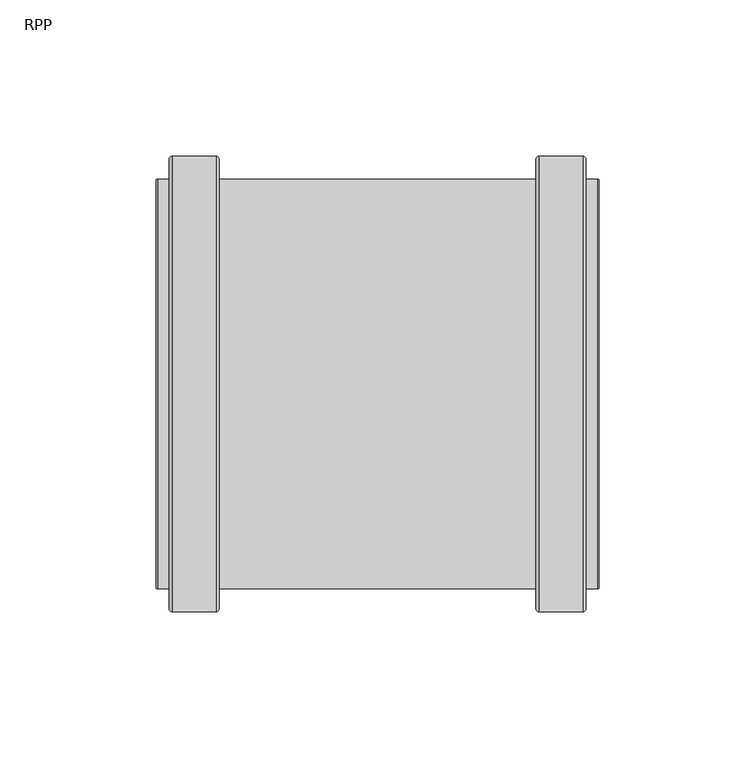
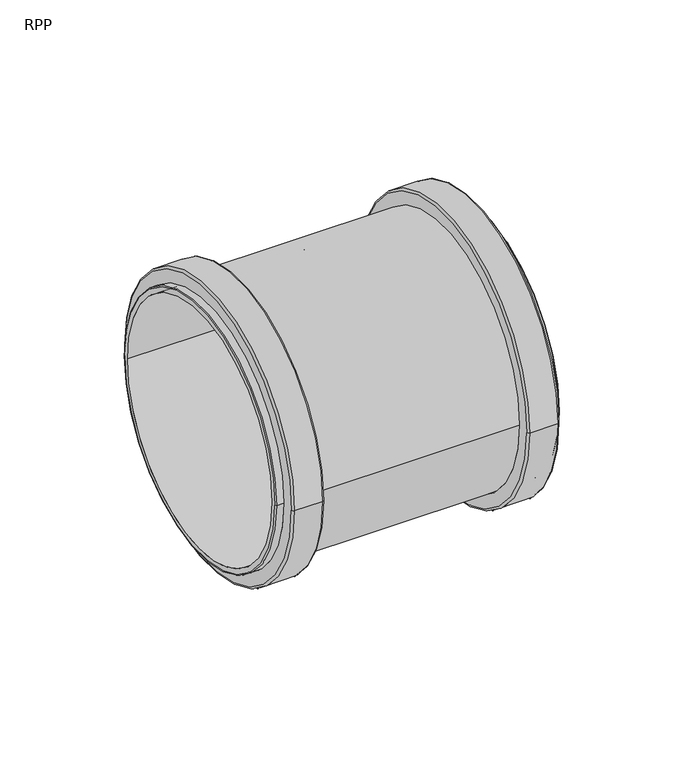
"""IFC4 building model written with IfcOpenShell, lengths in millimetres: pipe fitting geometry, RAUPIANO PLUS Double socket : RPP."""

from ifc_helpers import new_model, si_unit, point, frame, origin, place, context, project, spatial, polyline, circle_curve, ellipse_curve, trimmed, source, transform, mapped, element, save
from ifc_brep_helpers import plane_surface, cylinder_surface, revolved_surface, advanced_brep


def rpp_6ae6ac8c(model_context):
    return source(origin(), model_context, "Body", "AdvancedBrep", [
        advanced_brep(
        [(-65.8, 73.0, 0.0), (-65.8, -73.0, 0.0), (-66.8, -72.0, 0.0), (-66.8, 72.0, 0.0), (-51.8, 73.0, 0.0), (-51.8, -73.0, 0.0), (-50.8, 72.0, 0.0), (-50.8, -72.0, 0.0), (50.8, 65.6, 0.0), (50.8, -65.6, 0.0), (-50.8, -65.6, 0.0), (-50.8, 65.6, 0.0), (51.8, 73.0, 0.0), (51.8, -73.0, 0.0), (50.8, -72.0, 0.0), (50.8, 72.0, 0.0), (65.8, 73.0, 0.0), (65.8, -73.0, 0.0), (66.8, 72.0, 0.0), (66.8, -72.0, 0.0), (70.5, 65.6, 0.0), (70.5, -65.6, 0.0), (66.8, -65.6, 0.0), (66.8, 65.6, 0.0), (71.0, 65.1, 0.0), (71.0, -65.1, 0.0), (1.0, 62.5, 0.0), (1.0, -62.5, 0.0), (71.0, -62.5, 0.0), (71.0, 62.5, 0.0), (-1.0, 60.19828, 0.0), (-1.0, -60.19828, 0.0), (1.0, -60.19828, 0.0), (1.0, 60.19828, 0.0), (-71.0, 62.5, 0.0), (-71.0, -62.5, 0.0), (-1.0, -62.5, 0.0), (-1.0, 62.5, 0.0), (-70.5, 65.6, 0.0), (-70.5, -65.6, 0.0), (-71.0, -65.1, 0.0), (-71.0, 65.1, 0.0), (-66.8, 65.6, 0.0), (-66.8, -65.6, 0.0)],
        [
            (0, 1, circle_curve(frame((-65.8, 0.0, 0.0), z_axis=(-1.0, 0.0, 0.0), x_axis=(0.0, -1.0, 0.0)), 73.0)),
            (1, 2, circle_curve(frame((-65.8, -72.0, 0.0), z_axis=(0.0, 0.0, -1.0), x_axis=(1.0, 0.0, 0.0)), 1.0)),
            (2, 3, circle_curve(frame((-66.8, 0.0, 0.0), z_axis=(1.0, 0.0, 0.0), x_axis=(0.0, -1.0, 0.0)), 72.0)),
            (3, 0, circle_curve(frame((-65.8, 72.0, 0.0), z_axis=(0.0, 0.0, -1.0), x_axis=(1.0, 0.0, 0.0)), 1.0)),
            (4, 5, circle_curve(frame((-51.8, 0.0, 0.0), z_axis=(-1.0, 0.0, 0.0), x_axis=(0.0, -1.0, 0.0)), 73.0)),
            (5, 1),
            (0, 4),
            (6, 7, circle_curve(frame((-50.8, 0.0, 0.0), z_axis=(-1.0, 0.0, 0.0), x_axis=(0.0, -1.0, 0.0)), 72.0)),
            (7, 5, circle_curve(frame((-51.8, -72.0, 0.0), z_axis=(0.0, 0.0, -1.0), x_axis=(1.0, 0.0, 0.0)), 1.0)),
            (4, 6, circle_curve(frame((-51.8, 72.0, 0.0), z_axis=(0.0, 0.0, -1.0), x_axis=(1.0, 0.0, 0.0)), 1.0)),
            (8, 9, circle_curve(frame((50.8, 0.0, 0.0), z_axis=(-1.0, 0.0, 0.0), x_axis=(0.0, -1.0, 0.0)), 65.6)),
            (9, 10),
            (10, 11, circle_curve(frame((-50.8, 0.0, 0.0), z_axis=(1.0, 0.0, 0.0), x_axis=(0.0, -1.0, 0.0)), 65.6)),
            (11, 8),
            (12, 13, circle_curve(frame((51.8, 0.0, 0.0), z_axis=(-1.0, 0.0, 0.0), x_axis=(0.0, -1.0, 0.0)), 73.0)),
            (13, 14, circle_curve(frame((51.8, -72.0, 0.0), z_axis=(0.0, 0.0, -1.0), x_axis=(1.0, 0.0, 0.0)), 1.0)),
            (14, 15, circle_curve(frame((50.8, 0.0, 0.0), z_axis=(1.0, 0.0, 0.0), x_axis=(0.0, -1.0, 0.0)), 72.0)),
            (15, 12, circle_curve(frame((51.8, 72.0, 0.0), z_axis=(0.0, 0.0, -1.0), x_axis=(1.0, 0.0, 0.0)), 1.0)),
            (16, 17, circle_curve(frame((65.8, 0.0, 0.0), z_axis=(-1.0, 0.0, 0.0), x_axis=(0.0, -1.0, 0.0)), 73.0)),
            (17, 13),
            (12, 16),
            (18, 19, circle_curve(frame((66.8, 0.0, 0.0), z_axis=(-1.0, 0.0, 0.0), x_axis=(0.0, -1.0, 0.0)), 72.0)),
            (19, 17, circle_curve(frame((65.8, -72.0, 0.0), z_axis=(0.0, 0.0, -1.0), x_axis=(1.0, 0.0, 0.0)), 1.0)),
            (16, 18, circle_curve(frame((65.8, 72.0, 0.0), z_axis=(0.0, 0.0, -1.0), x_axis=(1.0, 0.0, 0.0)), 1.0)),
            (20, 21, circle_curve(frame((70.5, 0.0, 0.0), z_axis=(-1.0, 0.0, 0.0), x_axis=(0.0, -1.0, 0.0)), 65.6)),
            (21, 22),
            (22, 23, circle_curve(frame((66.8, 0.0, 0.0), z_axis=(1.0, 0.0, 0.0), x_axis=(0.0, -1.0, 0.0)), 65.6)),
            (23, 20),
            (24, 25, circle_curve(frame((71.0, 0.0, 0.0), z_axis=(-1.0, 0.0, 0.0), x_axis=(0.0, -1.0, 0.0)), 65.1)),
            (25, 21, circle_curve(frame((70.5, -65.1, 0.0), z_axis=(0.0, 0.0, -1.0), x_axis=(1.0, 0.0, 0.0)), 0.5)),
            (20, 24, circle_curve(frame((70.5, 65.1, 0.0), z_axis=(0.0, 0.0, -1.0), x_axis=(1.0, 0.0, 0.0)), 0.5)),
            (26, 27, circle_curve(frame((1.0, 0.0, 0.0), z_axis=(-1.0, 0.0, 0.0), x_axis=(0.0, -1.0, 0.0)), 62.5)),
            (27, 28),
            (28, 29, circle_curve(frame((71.0, 0.0, 0.0), z_axis=(1.0, 0.0, 0.0), x_axis=(0.0, -1.0, 0.0)), 62.5)),
            (29, 26),
            (30, 31, circle_curve(frame((-1.0, 0.0, 0.0), z_axis=(-1.0, 0.0, 0.0), x_axis=(0.0, -1.0, 0.0)), 60.19828)),
            (31, 32),
            (32, 33, circle_curve(frame((1.0, 0.0, 0.0), z_axis=(1.0, 0.0, 0.0), x_axis=(0.0, -1.0, 0.0)), 60.19828)),
            (33, 30),
            (34, 35, circle_curve(frame((-71.0, 0.0, 0.0), z_axis=(-1.0, 0.0, 0.0), x_axis=(0.0, -1.0, 0.0)), 62.5)),
            (35, 36),
            (36, 37, circle_curve(frame((-1.0, 0.0, 0.0), z_axis=(1.0, 0.0, 0.0), x_axis=(0.0, -1.0, 0.0)), 62.5)),
            (37, 34),
            (38, 39, circle_curve(frame((-70.5, 0.0, 0.0), z_axis=(-1.0, 0.0, 0.0), x_axis=(0.0, -1.0, 0.0)), 65.6)),
            (39, 40, circle_curve(frame((-70.5, -65.1, 0.0), z_axis=(0.0, 0.0, -1.0), x_axis=(1.0, 0.0, 0.0)), 0.5)),
            (40, 41, circle_curve(frame((-71.0, 0.0, 0.0), z_axis=(1.0, 0.0, 0.0), x_axis=(0.0, -1.0, 0.0)), 65.1)),
            (41, 38, circle_curve(frame((-70.5, 65.1, 0.0), z_axis=(0.0, 0.0, -1.0), x_axis=(1.0, 0.0, 0.0)), 0.5)),
            (42, 43, circle_curve(frame((-66.8, 0.0, 0.0), z_axis=(-1.0, 0.0, 0.0), x_axis=(0.0, -1.0, 0.0)), 65.6)),
            (43, 39),
            (38, 42),
            (2, 3, circle_curve(frame((-66.8, 0.0, 0.0), z_axis=(-1.0, 0.0, 0.0), x_axis=(0.0, 1.0, 0.0)), 72.0)),
            (42, 43, circle_curve(frame((-66.8, 0.0, 0.0), z_axis=(1.0, 0.0, 0.0), x_axis=(0.0, 1.0, 0.0)), 65.6)),
            (1, 0, circle_curve(frame((-65.8, 0.0, 0.0), z_axis=(-1.0, 0.0, 0.0), x_axis=(0.0, 1.0, 0.0)), 73.0)),
            (5, 4, circle_curve(frame((-51.8, 0.0, 0.0), z_axis=(-1.0, 0.0, 0.0), x_axis=(0.0, 1.0, 0.0)), 73.0)),
            (7, 6, circle_curve(frame((-50.8, 0.0, 0.0), z_axis=(-1.0, 0.0, 0.0), x_axis=(0.0, 1.0, 0.0)), 72.0)),
            (10, 11, circle_curve(frame((-50.8, 0.0, 0.0), z_axis=(-1.0, 0.0, 0.0), x_axis=(0.0, 1.0, 0.0)), 65.6)),
            (9, 8, circle_curve(frame((50.8, 0.0, 0.0), z_axis=(-1.0, 0.0, 0.0), x_axis=(0.0, 1.0, 0.0)), 65.6)),
            (14, 15, circle_curve(frame((50.8, 0.0, 0.0), z_axis=(-1.0, 0.0, 0.0), x_axis=(0.0, 1.0, 0.0)), 72.0)),
            (13, 12, circle_curve(frame((51.8, 0.0, 0.0), z_axis=(-1.0, 0.0, 0.0), x_axis=(0.0, 1.0, 0.0)), 73.0)),
            (17, 16, circle_curve(frame((65.8, 0.0, 0.0), z_axis=(-1.0, 0.0, 0.0), x_axis=(0.0, 1.0, 0.0)), 73.0)),
            (19, 18, circle_curve(frame((66.8, 0.0, 0.0), z_axis=(-1.0, 0.0, 0.0), x_axis=(0.0, 1.0, 0.0)), 72.0)),
            (22, 23, circle_curve(frame((66.8, 0.0, 0.0), z_axis=(-1.0, 0.0, 0.0), x_axis=(0.0, 1.0, 0.0)), 65.6)),
            (21, 20, circle_curve(frame((70.5, 0.0, 0.0), z_axis=(-1.0, 0.0, 0.0), x_axis=(0.0, 1.0, 0.0)), 65.6)),
            (25, 24, circle_curve(frame((71.0, 0.0, 0.0), z_axis=(-1.0, 0.0, 0.0), x_axis=(0.0, 1.0, 0.0)), 65.1)),
            (28, 29, circle_curve(frame((71.0, 0.0, 0.0), z_axis=(-1.0, 0.0, 0.0), x_axis=(0.0, 1.0, 0.0)), 62.5)),
            (27, 26, circle_curve(frame((1.0, 0.0, 0.0), z_axis=(-1.0, 0.0, 0.0), x_axis=(0.0, 1.0, 0.0)), 62.5)),
            (32, 33, circle_curve(frame((1.0, 0.0, 0.0), z_axis=(-1.0, 0.0, 0.0), x_axis=(0.0, 1.0, 0.0)), 60.19828)),
            (31, 30, circle_curve(frame((-1.0, 0.0, 0.0), z_axis=(-1.0, 0.0, 0.0), x_axis=(0.0, 1.0, 0.0)), 60.19828)),
            (36, 37, circle_curve(frame((-1.0, 0.0, 0.0), z_axis=(-1.0, 0.0, 0.0), x_axis=(0.0, 1.0, 0.0)), 62.5)),
            (35, 34, circle_curve(frame((-71.0, 0.0, 0.0), z_axis=(-1.0, 0.0, 0.0), x_axis=(0.0, 1.0, 0.0)), 62.5)),
            (40, 41, circle_curve(frame((-71.0, 0.0, 0.0), z_axis=(-1.0, 0.0, 0.0), x_axis=(0.0, 1.0, 0.0)), 65.1)),
            (39, 38, circle_curve(frame((-70.5, 0.0, 0.0), z_axis=(-1.0, 0.0, 0.0), x_axis=(0.0, 1.0, 0.0)), 65.6)),
        ],
        [
            revolved_surface(trimmed(ellipse_curve(frame((-65.8, -72.0, 0.0), z_axis=(0.0, 0.0, 1.0), x_axis=(1.0, 0.0, 0.0)), 1.0, 1.0), [point((-66.8, -72.0, 0.0))], [point((-65.8, -73.0, 0.0))], True, "CARTESIAN"), (0.0, 0.0, 0.0), (1.0, 0.0, 0.0)),
            cylinder_surface(frame((0.0, 0.0, 0.0), z_axis=(1.0, 0.0, 0.0), x_axis=(0.0, -1.0, 0.0)), 73.0),
            revolved_surface(trimmed(ellipse_curve(frame((-51.8, -72.0, 0.0), z_axis=(0.0, 0.0, 1.0), x_axis=(1.0, 0.0, 0.0)), 1.0, 1.0), [point((-51.8, -73.0, 0.0))], [point((-50.8, -72.0, 0.0))], True, "CARTESIAN"), (0.0, 0.0, 0.0), (1.0, 0.0, 0.0)),
            cylinder_surface(frame((0.0, 0.0, 0.0), z_axis=(1.0, 0.0, 0.0), x_axis=(0.0, -1.0, 0.0)), 65.6),
            revolved_surface(trimmed(ellipse_curve(frame((51.8, -72.0, 0.0), z_axis=(0.0, 0.0, 1.0), x_axis=(1.0, 0.0, 0.0)), 1.0, 1.0), [point((50.8, -72.0, 0.0))], [point((51.8, -73.0, 0.0))], True, "CARTESIAN"), (0.0, 0.0, 0.0), (1.0, 0.0, 0.0)),
            revolved_surface(trimmed(ellipse_curve(frame((65.8, -72.0, 0.0), z_axis=(0.0, 0.0, 1.0), x_axis=(1.0, 0.0, 0.0)), 1.0, 1.0), [point((65.8, -73.0, 0.0))], [point((66.8, -72.0, 0.0))], True, "CARTESIAN"), (0.0, 0.0, 0.0), (1.0, 0.0, 0.0)),
            revolved_surface(trimmed(ellipse_curve(frame((70.5, -65.1, 0.0), z_axis=(0.0, 0.0, 1.0), x_axis=(1.0, 0.0, 0.0)), 0.5, 0.5), [point((70.5, -65.6, 0.0))], [point((71.0, -65.1, 0.0))], True, "CARTESIAN"), (0.0, 0.0, 0.0), (1.0, 0.0, 0.0)),
            revolved_surface(polyline([(71.0, -62.5, 0.0), (1.0, -62.5, 0.0)]), (0.0, 0.0, 0.0), (1.0, 0.0, 0.0)),
            revolved_surface(polyline([(1.0, -60.19828, 0.0), (-1.0, -60.19828, 0.0)]), (0.0, 0.0, 0.0), (1.0, 0.0, 0.0)),
            revolved_surface(polyline([(-1.0, -62.5, 0.0), (-71.0, -62.5, 0.0)]), (0.0, 0.0, 0.0), (1.0, 0.0, 0.0)),
            revolved_surface(trimmed(ellipse_curve(frame((-70.5, -65.1, 0.0), z_axis=(0.0, 0.0, 1.0), x_axis=(1.0, 0.0, 0.0)), 0.5, 0.5), [point((-71.0, -65.1, 0.0))], [point((-70.5, -65.6, 0.0))], True, "CARTESIAN"), (0.0, 0.0, 0.0), (1.0, 0.0, 0.0)),
            plane_surface(frame((-66.8, 0.0, 0.0), z_axis=(-1.0, 0.0, 0.0), x_axis=(0.0, 1.0, 0.0))),
            revolved_surface(trimmed(ellipse_curve(frame((-65.8, 72.0, 0.0), z_axis=(0.0, 0.0, -1.0), x_axis=(1.0, 0.0, 0.0)), 1.0, 1.0), [point((-66.8, 72.0, 0.0))], [point((-65.8, 73.0, 0.0))], True, "CARTESIAN"), (0.0, 0.0, 0.0), (1.0, 0.0, 0.0)),
            cylinder_surface(frame((0.0, 0.0, 0.0), z_axis=(1.0, 0.0, 0.0), x_axis=(0.0, 1.0, 0.0)), 73.0),
            revolved_surface(trimmed(ellipse_curve(frame((-51.8, 72.0, 0.0), z_axis=(0.0, 0.0, -1.0), x_axis=(1.0, 0.0, 0.0)), 1.0, 1.0), [point((-51.8, 73.0, 0.0))], [point((-50.8, 72.0, 0.0))], True, "CARTESIAN"), (0.0, 0.0, 0.0), (1.0, 0.0, 0.0)),
            plane_surface(frame((-50.8, 0.0, 0.0), z_axis=(1.0, 0.0, 0.0), x_axis=(0.0, 1.0, 0.0))),
            cylinder_surface(frame((0.0, 0.0, 0.0), z_axis=(1.0, 0.0, 0.0), x_axis=(0.0, 1.0, 0.0)), 65.6),
            plane_surface(frame((50.8, 0.0, 0.0), z_axis=(-1.0, 0.0, 0.0), x_axis=(0.0, 1.0, 0.0))),
            revolved_surface(trimmed(ellipse_curve(frame((51.8, 72.0, 0.0), z_axis=(0.0, 0.0, -1.0), x_axis=(1.0, 0.0, 0.0)), 1.0, 1.0), [point((50.8, 72.0, 0.0))], [point((51.8, 73.0, 0.0))], True, "CARTESIAN"), (0.0, 0.0, 0.0), (1.0, 0.0, 0.0)),
            revolved_surface(trimmed(ellipse_curve(frame((65.8, 72.0, 0.0), z_axis=(0.0, 0.0, -1.0), x_axis=(1.0, 0.0, 0.0)), 1.0, 1.0), [point((65.8, 73.0, 0.0))], [point((66.8, 72.0, 0.0))], True, "CARTESIAN"), (0.0, 0.0, 0.0), (1.0, 0.0, 0.0)),
            plane_surface(frame((66.8, 0.0, 0.0), z_axis=(1.0, 0.0, 0.0), x_axis=(0.0, 1.0, 0.0))),
            revolved_surface(trimmed(ellipse_curve(frame((70.5, 65.1, 0.0), z_axis=(0.0, 0.0, -1.0), x_axis=(1.0, 0.0, 0.0)), 0.5, 0.5), [point((70.5, 65.6, 0.0))], [point((71.0, 65.1, 0.0))], True, "CARTESIAN"), (0.0, 0.0, 0.0), (1.0, 0.0, 0.0)),
            plane_surface(frame((71.0, 0.0, 0.0), z_axis=(1.0, 0.0, 0.0), x_axis=(0.0, 1.0, 0.0))),
            revolved_surface(polyline([(71.0, 62.5, 0.0), (1.0, 62.5, 0.0)]), (0.0, 0.0, 0.0), (1.0, 0.0, 0.0)),
            plane_surface(frame((1.0, 0.0, 0.0), z_axis=(1.0, 0.0, 0.0), x_axis=(0.0, 1.0, 0.0))),
            revolved_surface(polyline([(1.0, 60.19828, 0.0), (-1.0, 60.19828, 0.0)]), (0.0, 0.0, 0.0), (1.0, 0.0, 0.0)),
            plane_surface(frame((-1.0, 0.0, 0.0), z_axis=(-1.0, 0.0, 0.0), x_axis=(0.0, 1.0, 0.0))),
            revolved_surface(polyline([(-1.0, 62.5, 0.0), (-71.0, 62.5, 0.0)]), (0.0, 0.0, 0.0), (1.0, 0.0, 0.0)),
            plane_surface(frame((-71.0, 0.0, 0.0), z_axis=(-1.0, 0.0, 0.0), x_axis=(0.0, 1.0, 0.0))),
            revolved_surface(trimmed(ellipse_curve(frame((-70.5, 65.1, 0.0), z_axis=(0.0, 0.0, -1.0), x_axis=(1.0, 0.0, 0.0)), 0.5, 0.5), [point((-71.0, 65.1, 0.0))], [point((-70.5, 65.6, 0.0))], True, "CARTESIAN"), (0.0, 0.0, 0.0), (1.0, 0.0, 0.0)),
        ],
        [
            (0, [[1, 2, 3, 4]]),
            (1, [[5, 6, -1, 7]]),
            (2, [[8, 9, -5, 10]]),
            (3, [[11, 12, 13, 14]]),
            (4, [[15, 16, 17, 18]]),
            (1, [[19, 20, -15, 21]]),
            (5, [[22, 23, -19, 24]]),
            (3, [[25, 26, 27, 28]]),
            (6, [[29, 30, -25, 31]]),
            (7, [[32, 33, 34, 35]]),
            (8, [[36, 37, 38, 39]]),
            (9, [[40, 41, 42, 43]]),
            (10, [[44, 45, 46, 47]]),
            (3, [[48, 49, -44, 50]]),
            (11, [[51, -3], [52, -48]]),
            (12, [[53, -4, -51, -2]]),
            (13, [[54, -7, -53, -6]]),
            (14, [[55, -10, -54, -9]]),
            (15, [[-55, -8], [56, -13]]),
            (16, [[57, -14, -56, -12]]),
            (17, [[58, -17], [-57, -11]]),
            (18, [[59, -18, -58, -16]]),
            (13, [[60, -21, -59, -20]]),
            (19, [[61, -24, -60, -23]]),
            (20, [[-61, -22], [62, -27]]),
            (16, [[63, -28, -62, -26]]),
            (21, [[64, -31, -63, -30]]),
            (22, [[-64, -29], [65, -34]]),
            (23, [[66, -35, -65, -33]]),
            (24, [[-66, -32], [67, -38]]),
            (25, [[68, -39, -67, -37]]),
            (26, [[69, -42], [-68, -36]]),
            (27, [[70, -43, -69, -41]]),
            (28, [[71, -46], [-70, -40]]),
            (29, [[72, -47, -71, -45]]),
            (16, [[-52, -50, -72, -49]]),
        ],
    ),
    ])


if __name__ == "__main__":
    model = new_model("IFC4")
    model_context = context("Model", 3, world=origin())
    ifc_project = project(units=[si_unit("LENGTHUNIT", "METRE", prefix="MILLI")], contexts=[model_context])
    site = spatial("IfcSite", under=ifc_project)
    building = spatial("IfcBuilding", under=site)
    placement = place(None, origin())
    rpp_shape = rpp_6ae6ac8c(model_context)
    element("IfcPipeFitting", 1, ObjectType="RAUPIANO PLUS Double socket : RPP", at=placement, inside=building, context=model_context, shape_type="MappedRepresentation", body=[
        mapped(rpp_shape, transform((0.0, 0.0, 0.0), x_axis=(1.0, 0.0, 0.0), y_axis=(0.0, 1.0, 0.0), z_axis=(0.0, 0.0, 1.0))),
    ])
    save(model, "model.ifc")
